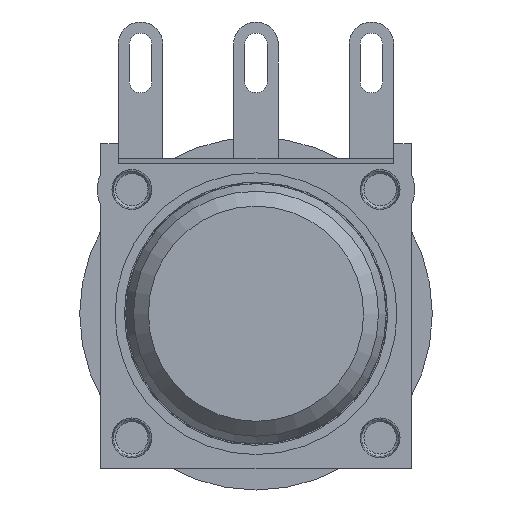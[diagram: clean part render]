
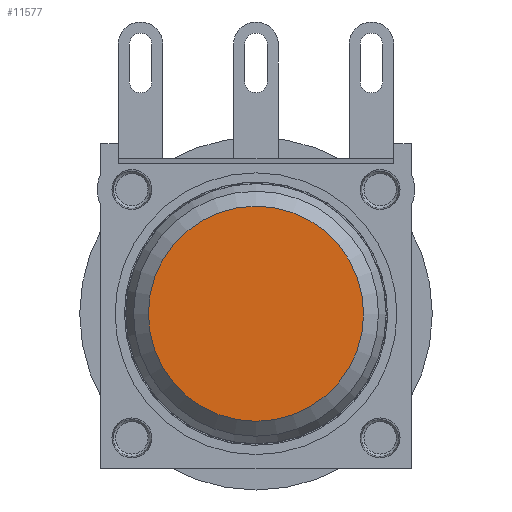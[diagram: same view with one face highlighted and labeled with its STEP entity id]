
A CAD part, left-side view. The second image highlights one B-rep face of the part: STEP entity #11577.
In plain terms, the highlighted planar face has unit normal (-1, 0, 0) as drawn and (0, 0, 1) by its records, which use the part's own axes.
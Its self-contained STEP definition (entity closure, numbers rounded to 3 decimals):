
#2734=PLANE('',#13109);
#4510=ORIENTED_EDGE('',*,*,#7136,.T.);
#7136=EDGE_CURVE('',#8608,#8608,#9479,.T.);
#8608=VERTEX_POINT('',#18008);
#9479=CIRCLE('',#13108,4.334);
#9997=EDGE_LOOP('',(#4510));
#10763=FACE_BOUND('',#9997,.T.);
#11577=ADVANCED_FACE('',(#10763),#2734,.T.);
#13108=AXIS2_PLACEMENT_3D('',#18007,#15133,#15134);
#13109=AXIS2_PLACEMENT_3D('',#18009,#15135,#15136);
#15133=DIRECTION('',(0.,0.,1.));
#15134=DIRECTION('',(1.,0.,0.));
#15135=DIRECTION('',(0.,0.,1.));
#15136=DIRECTION('',(1.,0.,0.));
#18007=CARTESIAN_POINT('',(0.,0.,1.4));
#18008=CARTESIAN_POINT('',(4.334,0.,1.4));
#18009=CARTESIAN_POINT('',(0.,0.,1.4));
